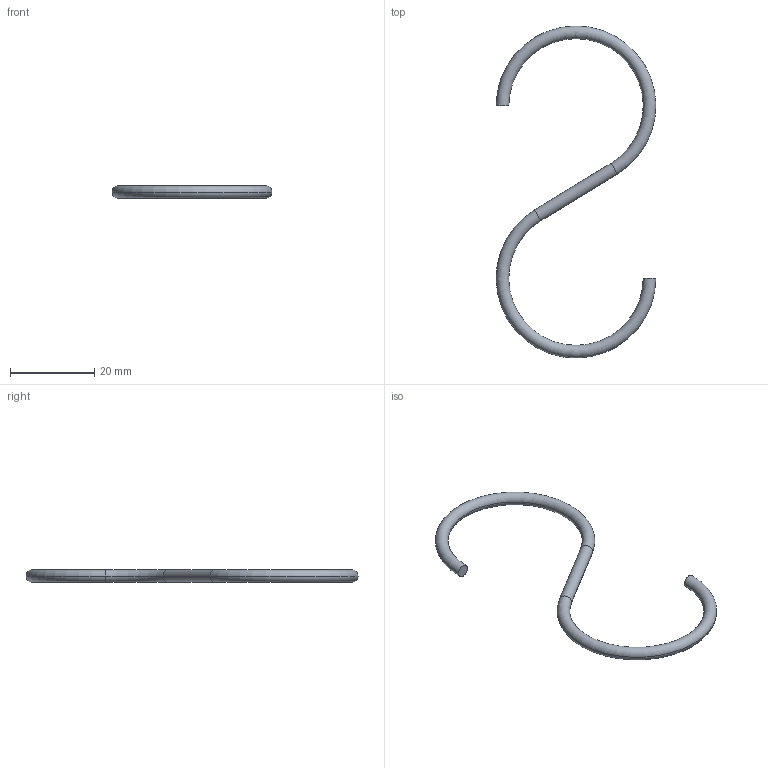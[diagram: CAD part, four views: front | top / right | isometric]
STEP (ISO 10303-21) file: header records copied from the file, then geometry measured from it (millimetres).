
FILE_DESCRIPTION (( 'STEP AP203' ), '1' );
FILE_NAME ('015.300.018.STEP', '2016-10-24T08:51:22', ( '' ), ( '' ), 'SwSTEP 2.0', 'SolidWorks 2016', '' );
FILE_SCHEMA (( 'CONFIG_CONTROL_DESIGN' ));
Length unit declared in the file: millimetre
Products named in the file (1): 015.300.018
Bounding box: 38 x 79 x 3 mm (x, y, z)
Volume: 1181.3 mm3; surface area: 1589.1 mm2
Topology: 1 solids, 1 shells, 8 faces, 14 edges, 8 vertices
Faces by surface type: torus 4, cylinder 2, plane 2
Entity records: 275 total; most frequent: DIRECTION 44, CARTESIAN_POINT 31, ORIENTED_EDGE 28, AXIS2_PLACEMENT_3D 21, EDGE_CURVE 14, CIRCLE 12, PERSON_AND_ORGANIZATION 8, VERTEX_POINT 8
